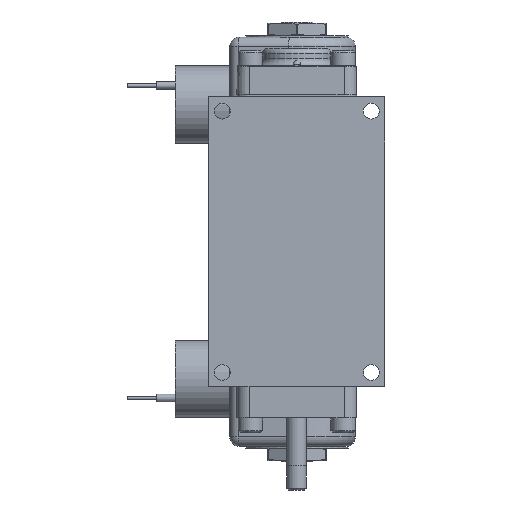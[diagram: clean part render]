
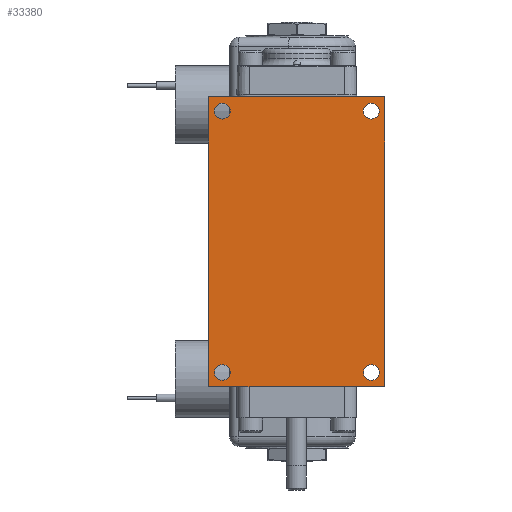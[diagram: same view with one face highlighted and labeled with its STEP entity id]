
A CAD part, front view. The second image highlights one B-rep face of the part: STEP entity #33380.
In plain terms, the highlighted planar face has unit normal (0, -1, 0).
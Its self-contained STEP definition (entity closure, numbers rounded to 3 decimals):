
#1146=FACE_BOUND('',#9396,.T.);
#1147=FACE_BOUND('',#9397,.T.);
#1148=FACE_BOUND('',#9398,.T.);
#1149=FACE_BOUND('',#9399,.T.);
#1850=LINE('',#48070,#4234);
#1860=LINE('',#48106,#4244);
#2082=LINE('',#49142,#4466);
#2324=LINE('',#50566,#4708);
#4234=VECTOR('',#38692,1.);
#4244=VECTOR('',#38720,1.);
#4466=VECTOR('',#39146,1.);
#4708=VECTOR('',#39538,1.);
#7359=FACE_OUTER_BOUND('',#9395,.T.);
#9395=EDGE_LOOP('',(#22546,#22547,#22548,#22549));
#9396=EDGE_LOOP('',(#22550));
#9397=EDGE_LOOP('',(#22551));
#9398=EDGE_LOOP('',(#22552));
#9399=EDGE_LOOP('',(#22553));
#11395=CIRCLE('',#35466,0.258);
#11396=CIRCLE('',#35468,0.258);
#11397=CIRCLE('',#35470,0.258);
#11398=CIRCLE('',#35472,0.258);
#12924=VERTEX_POINT('',#48067);
#12925=VERTEX_POINT('',#48069);
#12941=VERTEX_POINT('',#48103);
#12942=VERTEX_POINT('',#48105);
#13477=VERTEX_POINT('',#51414);
#13478=VERTEX_POINT('',#51418);
#13479=VERTEX_POINT('',#51422);
#13480=VERTEX_POINT('',#51426);
#16009=EDGE_CURVE('',#12924,#12925,#1850,.T.);
#16026=EDGE_CURVE('',#12941,#12942,#1860,.T.);
#16323=EDGE_CURVE('',#12942,#12924,#2082,.T.);
#16659=EDGE_CURVE('',#12925,#12941,#2324,.T.);
#16834=EDGE_CURVE('',#13477,#13477,#11395,.T.);
#16836=EDGE_CURVE('',#13478,#13478,#11396,.T.);
#16838=EDGE_CURVE('',#13479,#13479,#11397,.T.);
#16840=EDGE_CURVE('',#13480,#13480,#11398,.T.);
#22546=ORIENTED_EDGE('',*,*,#16323,.F.);
#22547=ORIENTED_EDGE('',*,*,#16026,.F.);
#22548=ORIENTED_EDGE('',*,*,#16659,.F.);
#22549=ORIENTED_EDGE('',*,*,#16009,.F.);
#22550=ORIENTED_EDGE('',*,*,#16834,.T.);
#22551=ORIENTED_EDGE('',*,*,#16836,.T.);
#22552=ORIENTED_EDGE('',*,*,#16838,.T.);
#22553=ORIENTED_EDGE('',*,*,#16840,.T.);
#30335=PLANE('',#35498);
#33380=ADVANCED_FACE('',(#7359,#1146,#1147,#1148,#1149),#30335,.F.);
#35466=AXIS2_PLACEMENT_3D('',#51416,#39905,#39906);
#35468=AXIS2_PLACEMENT_3D('',#51420,#39910,#39911);
#35470=AXIS2_PLACEMENT_3D('',#51424,#39915,#39916);
#35472=AXIS2_PLACEMENT_3D('',#51428,#39920,#39921);
#35498=AXIS2_PLACEMENT_3D('',#51479,#39987,#39988);
#38692=DIRECTION('',(1.,0.,0.));
#38720=DIRECTION('',(-1.,0.,0.));
#39146=DIRECTION('',(0.,0.,1.));
#39538=DIRECTION('',(0.,0.,-1.));
#39905=DIRECTION('center_axis',(0.,1.,0.));
#39906=DIRECTION('ref_axis',(-1.,0.,0.));
#39910=DIRECTION('center_axis',(0.,1.,0.));
#39911=DIRECTION('ref_axis',(-1.,0.,0.));
#39915=DIRECTION('center_axis',(0.,1.,0.));
#39916=DIRECTION('ref_axis',(-1.,0.,0.));
#39920=DIRECTION('center_axis',(0.,1.,0.));
#39921=DIRECTION('ref_axis',(-1.,0.,0.));
#39987=DIRECTION('center_axis',(0.,1.,0.));
#39988=DIRECTION('ref_axis',(0.,0.,1.));
#48067=CARTESIAN_POINT('',(-2.858,-1.636,4.71));
#48069=CARTESIAN_POINT('',(2.858,-1.636,4.71));
#48070=CARTESIAN_POINT('',(-2.858,-1.636,4.71));
#48103=CARTESIAN_POINT('',(2.858,-1.636,-4.71));
#48105=CARTESIAN_POINT('',(-2.858,-1.636,-4.71));
#48106=CARTESIAN_POINT('',(2.858,-1.636,-4.71));
#49142=CARTESIAN_POINT('',(-2.858,-1.636,-4.71));
#50566=CARTESIAN_POINT('',(2.858,-1.636,4.71));
#51414=CARTESIAN_POINT('',(-2.163,-1.636,-4.247));
#51416=CARTESIAN_POINT('Origin',(-2.421,-1.636,-4.247));
#51418=CARTESIAN_POINT('',(-2.163,-1.636,4.247));
#51420=CARTESIAN_POINT('Origin',(-2.421,-1.636,4.247));
#51422=CARTESIAN_POINT('',(2.678,-1.636,-4.247));
#51424=CARTESIAN_POINT('Origin',(2.421,-1.636,-4.247));
#51426=CARTESIAN_POINT('',(2.678,-1.636,4.247));
#51428=CARTESIAN_POINT('Origin',(2.421,-1.636,4.247));
#51479=CARTESIAN_POINT('Origin',(0.,-1.636,0.));
